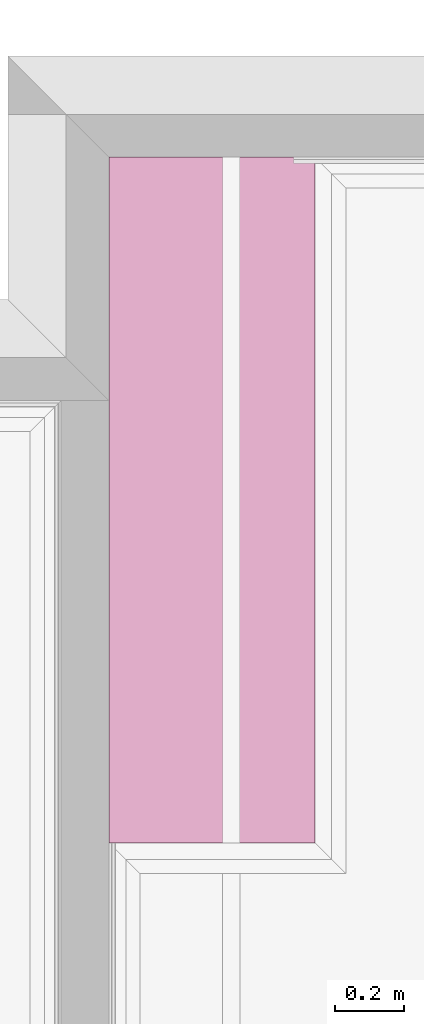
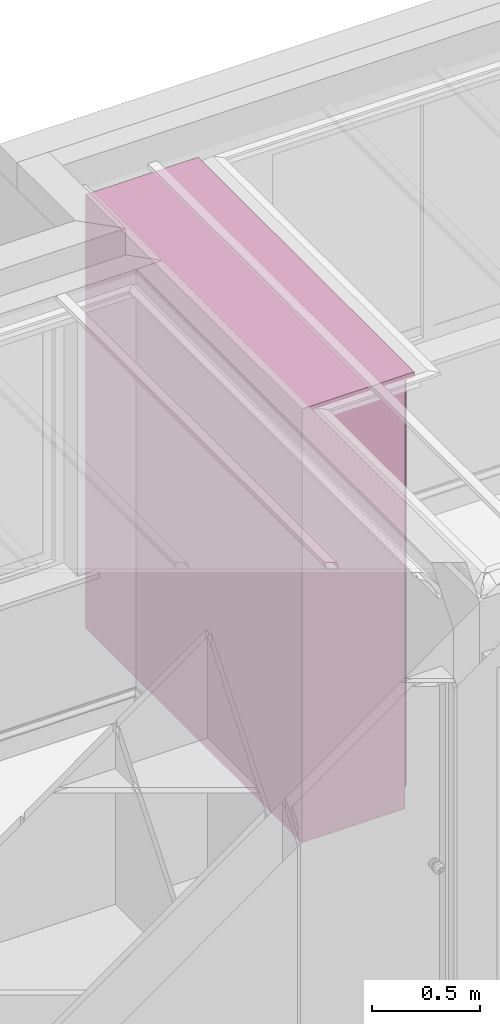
# One storey, part 15 of 15: 1 furnishing.
"""IFC2X3 building model written with IfcOpenShell, lengths in millimetres."""

from ifc_helpers import new_model, entity, si_unit, converted_unit, money_unit, direction, frame, origin_with_axes, place, context, subcontext, project, spatial, faceted_brep, source, transform, mapped, material, type_object, element, save


model = new_model("IFC2X3")

# Units and contexts
model_context = context("Model", 3, precision=1e-05, world=origin_with_axes(), true_north=direction((0.0, 1.0)))
body_context = subcontext(model_context, "Body", "Model", "MODEL_VIEW")
ifc_project = project(units=[si_unit("LENGTHUNIT", "METRE", prefix="MILLI"), si_unit("AREAUNIT", "SQUARE_METRE"), si_unit("VOLUMEUNIT", "CUBIC_METRE"), converted_unit("PLANEANGLEUNIT", "DEGREE", entity("IfcPlaneAngleMeasure", 0.0174532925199), si_unit("PLANEANGLEUNIT", "RADIAN"), dimensions=[0, 0, 0, 0, 0, 0, 0]), si_unit("SOLIDANGLEUNIT", "STERADIAN"), money_unit("AUD"), si_unit("TIMEUNIT", "SECOND"), si_unit("MASSUNIT", "GRAM"), si_unit("THERMODYNAMICTEMPERATUREUNIT", "DEGREE_CELSIUS"), si_unit("LUMINOUSINTENSITYUNIT", "LUMEN")], contexts=[model_context])

# Site, building, storey
site_placement = place(None, origin_with_axes())
site = spatial("IfcSite", under=ifc_project, at=site_placement, Name="Lot 1. East Hills", CompositionType="ELEMENT")
building_placement = place(site_placement, origin_with_axes())
building = spatial("IfcBuilding", under=site, at=building_placement, Name="Proposed Units 7 & 8", CompositionType="ELEMENT")
storey_placement = place(building_placement, frame((0.0, 0.0, 3202.0), z_axis=(0.0, 0.0, 1.0), x_axis=(1.0, 0.0, 0.0)))
storey = spatial("IfcBuildingStorey", under=building, at=storey_placement, Name="Ground", CompositionType="ELEMENT", Elevation=3202.0)

# Furnishing
ifc_material = material(Name="50 %")
furnishing_element_type = type_object("IfcFurnishingElementType", Name="Cupboard 12")
shared_shape = source(origin_with_axes(), body_context, "Body", "Brep", [
    faceted_brep([(1980.0, 600.656985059, 120.0), (1980.0, 600.656985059, 2400.0), (1980.0, 580.656985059, 2400.0), (1980.0, 580.656985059, 120.0), (20.0, 600.656985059, 120.0), (20.0, 600.656985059, 2400.0), (20.0, 580.656985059, 2400.0), (20.0, 580.656985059, 120.0)], [[[0, 1, 2, 3]], [[4, 5, 1, 0]], [[1, 5, 6, 2]], [[3, 2, 6, 7]], [[0, 3, 7, 4]], [[7, 6, 5, 4]]]),
    faceted_brep([(2000.0, 600.656985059, 100.0), (2000.0, 50.0, 100.0), (0.0, 50.0, 100.0), (0.0, 600.656985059, 100.0), (2000.0, 600.656985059, 2420.0), (2000.0, 50.0, 2420.0), (0.0, 50.0, 2420.0), (1980.0, 50.0, 120.0), (20.0, 50.0, 120.0), (20.0, 50.0, 2400.0), (1980.0, 50.0, 2400.0), (0.0, 600.656985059, 2420.0), (1980.0, 600.656985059, 120.0), (1980.0, 600.656985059, 2400.0), (20.0, 600.656985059, 2400.0), (20.0, 600.656985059, 120.0)], [[[0, 1, 2, 3]], [[4, 5, 1, 0]], [[1, 5, 6, 2], [7, 8, 9, 10]], [[3, 2, 6, 11]], [[0, 3, 11, 4], [12, 13, 14, 15]], [[11, 6, 5, 4]], [[15, 8, 7, 12]], [[14, 9, 8, 15]], [[13, 10, 9, 14]], [[12, 7, 10, 13]]]),
    faceted_brep([(0.0, 600.656985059, 2420.0), (0.0, 0.0, 2420.0), (0.0, 0.0, 2450.0), (0.0, 600.656985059, 2450.0), (2000.0, 600.656985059, 2420.0), (2000.0, 0.0, 2420.0), (2000.0, 0.0, 2450.0), (2000.0, 600.656985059, 2450.0)], [[[0, 1, 2, 3]], [[0, 4, 5, 1]], [[1, 5, 6, 2]], [[3, 2, 6, 7]], [[4, 0, 3, 7]], [[5, 4, 7, 6]]]),
    faceted_brep([(1960.0, 600.656985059, 0.0), (1960.0, 600.656985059, 100.0), (1960.0, 560.656985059, 100.0), (1960.0, 560.656985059, 0.0), (40.0, 600.656985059, 0.0), (40.0, 600.656985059, 100.0), (40.0, 560.656985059, 100.0), (40.0, 560.656985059, 0.0)], [[[0, 1, 2, 3]], [[4, 5, 1, 0]], [[1, 5, 6, 2]], [[3, 2, 6, 7]], [[0, 3, 7, 4]], [[7, 6, 5, 4]]]),
    faceted_brep([(2000.0, 600.656985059, 0.0), (2000.0, 600.656985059, 100.0), (2000.0, 50.0, 100.0), (2000.0, 50.0, 0.0), (1960.0, 600.656985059, 0.0), (1960.0, 600.656985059, 100.0), (1960.0, 50.0, 100.0), (1960.0, 50.0, 0.0)], [[[0, 1, 2, 3]], [[4, 5, 1, 0]], [[1, 5, 6, 2]], [[3, 2, 6, 7]], [[0, 3, 7, 4]], [[7, 6, 5, 4]]]),
    faceted_brep([(40.0, 600.656985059, 0.0), (40.0, 600.656985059, 100.0), (40.0, 50.0, 100.0), (40.0, 50.0, 0.0), (0.0, 600.656985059, 0.0), (0.0, 600.656985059, 100.0), (0.0, 50.0, 100.0), (0.0, 50.0, 0.0)], [[[0, 1, 2, 3]], [[4, 5, 1, 0]], [[1, 5, 6, 2]], [[3, 2, 6, 7]], [[0, 3, 7, 4]], [[7, 6, 5, 4]]]),
    faceted_brep([(1960.0, 130.0, 0.0), (1960.0, 130.0, 100.0), (1960.0, 90.0, 100.0), (1960.0, 90.0, 0.0), (40.0, 130.0, 0.0), (40.0, 130.0, 100.0), (40.0, 90.0, 100.0), (40.0, 90.0, 0.0)], [[[0, 1, 2, 3]], [[4, 5, 1, 0]], [[1, 5, 6, 2]], [[3, 2, 6, 7]], [[0, 3, 7, 4]], [[7, 6, 5, 4]]]),
    faceted_brep([(1980.0, 580.656985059, 866.666666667), (1980.0, 580.656985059, 886.666666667), (1980.0, 50.0, 886.666666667), (1980.0, 50.0, 866.666666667), (20.0, 580.656985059, 866.666666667), (20.0, 580.656985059, 886.666666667), (20.0, 50.0, 886.666666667), (20.0, 50.0, 866.666666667)], [[[0, 1, 2, 3]], [[4, 5, 1, 0]], [[1, 5, 6, 2]], [[3, 2, 6, 7]], [[0, 3, 7, 4]], [[7, 6, 5, 4]]]),
    faceted_brep([(1980.0, 580.656985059, 1633.33333333), (1980.0, 580.656985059, 1653.33333333), (1980.0, 50.0, 1653.33333333), (1980.0, 50.0, 1633.33333333), (20.0, 580.656985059, 1633.33333333), (20.0, 580.656985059, 1653.33333333), (20.0, 50.0, 1653.33333333), (20.0, 50.0, 1633.33333333)], [[[0, 1, 2, 3]], [[4, 5, 1, 0]], [[1, 5, 6, 2]], [[3, 2, 6, 7]], [[0, 3, 7, 4]], [[7, 6, 5, 4]]]),
    faceted_brep([(660.0, 580.656985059, 120.0), (660.0, 580.656985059, 2400.0), (680.0, 580.656985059, 2400.0), (680.0, 580.656985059, 120.0), (660.0, 50.0, 120.0), (660.0, 50.0, 2400.0), (680.0, 50.0, 2400.0), (680.0, 50.0, 120.0)], [[[0, 1, 2, 3]], [[4, 5, 1, 0]], [[1, 5, 6, 2]], [[3, 2, 6, 7]], [[0, 3, 7, 4]], [[7, 6, 5, 4]]]),
    faceted_brep([(1990.5, 50.0, 110.0), (1330.5, 50.0, 110.0), (1330.5, 50.0, 2410.0), (1990.5, 50.0, 2410.0), (1990.50000039, 40.0, 109.99999961), (1330.50000024, 40.0, 109.99999961), (1330.50000024, 40.0, 2410.00000036), (1990.50000039, 40.0, 2410.00000036), (1980.50000061, 30.0000002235, 119.999999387), (1340.50000002, 30.0000002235, 119.999999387), (1340.50000002, 30.0000002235, 2400.00000058), (1980.50000061, 30.0000002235, 2400.00000058)], [[[0, 1, 2, 3]], [[0, 4, 5, 1]], [[1, 5, 6, 2]], [[2, 6, 7, 3]], [[3, 7, 4, 0]], [[4, 8, 9, 5]], [[5, 9, 10, 6]], [[6, 10, 11, 7]], [[7, 11, 8, 4]], [[10, 9, 8, 11]]]),
    faceted_brep([(1330.5, 50.0, 110.0), (670.5, 50.0, 110.0), (670.5, 50.0, 2410.0), (1330.5, 50.0, 2410.0), (1330.50000039, 40.0, 109.99999961), (670.500000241, 40.0, 109.99999961), (670.500000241, 40.0, 2410.00000036), (1330.50000039, 40.0, 2410.00000036), (1320.50000061, 30.0000002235, 119.999999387), (680.500000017, 30.0000002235, 119.999999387), (680.500000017, 30.0000002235, 2400.00000058), (1320.50000061, 30.0000002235, 2400.00000058)], [[[0, 1, 2, 3]], [[0, 4, 5, 1]], [[1, 5, 6, 2]], [[2, 6, 7, 3]], [[3, 7, 4, 0]], [[4, 8, 9, 5]], [[5, 9, 10, 6]], [[6, 10, 11, 7]], [[7, 11, 8, 4]], [[10, 9, 8, 11]]]),
    faceted_brep([(670.5, 50.0, 110.0), (10.5, 50.0, 110.0), (10.5, 50.0, 2410.0), (670.5, 50.0, 2410.0), (670.50000039, 40.0, 109.99999961), (10.5000002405, 40.0, 109.99999961), (10.5000002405, 40.0, 2410.00000036), (670.50000039, 40.0, 2410.00000036), (660.500000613, 30.0000002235, 119.999999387), (20.500000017, 30.0000002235, 119.999999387), (20.500000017, 30.0000002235, 2400.00000058), (660.500000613, 30.0000002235, 2400.00000058)], [[[0, 1, 2, 3]], [[0, 4, 5, 1]], [[1, 5, 6, 2]], [[2, 6, 7, 3]], [[3, 7, 4, 0]], [[4, 8, 9, 5]], [[5, 9, 10, 6]], [[6, 10, 11, 7]], [[7, 11, 8, 4]], [[10, 9, 8, 11]]]),
    faceted_brep([(609.607695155, 30.0, 954.0), (608.0, 30.0, 960.0), (609.607695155, 30.0, 966.0), (614.0, 30.0, 970.392304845), (620.0, 30.0, 972.0), (626.0, 30.0, 970.392304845), (630.392304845, 30.0, 966.0), (632.0, 30.0, 960.0), (630.392304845, 30.0, 954.0), (626.0, 30.0, 949.607695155), (620.0, 30.0, 948.0), (614.0, 30.0, 949.607695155), (609.607695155, 5.0, 954.0), (608.0, 5.0, 960.0), (609.607695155, 5.0, 966.0), (614.0, 5.0, 970.392304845), (620.0, 5.0, 972.0), (626.0, 5.0, 970.392304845), (630.392304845, 5.0, 966.0), (632.0, 5.0, 960.0), (630.392304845, 5.0, 954.0), (626.0, 5.0, 949.607695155), (620.0, 5.0, 948.0), (614.0, 5.0, 949.607695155)], [[[0, 1, 2, 3, 4, 5, 6, 7, 8, 9, 10, 11]], [[0, 12, 13, 1]], [[1, 13, 14, 2]], [[2, 14, 15, 3]], [[3, 15, 16, 4]], [[4, 16, 17, 5]], [[5, 17, 18, 6]], [[6, 18, 19, 7]], [[7, 19, 20, 8]], [[8, 20, 21, 9]], [[9, 21, 22, 10]], [[10, 22, 23, 11]], [[11, 23, 12, 0]], [[12, 23, 22, 21, 20, 19, 18, 17, 16, 15, 14, 13]]]),
    faceted_brep([(1369.60769515, 30.0, 954.0), (1368.0, 30.0, 960.0), (1369.60769515, 30.0, 966.0), (1374.0, 30.0, 970.392304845), (1380.0, 30.0, 972.0), (1386.0, 30.0, 970.392304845), (1390.39230485, 30.0, 966.0), (1392.0, 30.0, 960.0), (1390.39230485, 30.0, 954.0), (1386.0, 30.0, 949.607695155), (1380.0, 30.0, 948.0), (1374.0, 30.0, 949.607695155), (1369.60769515, 5.0, 954.0), (1368.0, 5.0, 960.0), (1369.60769515, 5.0, 966.0), (1374.0, 5.0, 970.392304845), (1380.0, 5.0, 972.0), (1386.0, 5.0, 970.392304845), (1390.39230485, 5.0, 966.0), (1392.0, 5.0, 960.0), (1390.39230485, 5.0, 954.0), (1386.0, 5.0, 949.607695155), (1380.0, 5.0, 948.0), (1374.0, 5.0, 949.607695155)], [[[0, 1, 2, 3, 4, 5, 6, 7, 8, 9, 10, 11]], [[0, 12, 13, 1]], [[1, 13, 14, 2]], [[2, 14, 15, 3]], [[3, 15, 16, 4]], [[4, 16, 17, 5]], [[5, 17, 18, 6]], [[6, 18, 19, 7]], [[7, 19, 20, 8]], [[8, 20, 21, 9]], [[9, 21, 22, 10]], [[10, 22, 23, 11]], [[11, 23, 12, 0]], [[12, 23, 22, 21, 20, 19, 18, 17, 16, 15, 14, 13]]]),
    faceted_brep([(1290.39230485, 30.0, 954.0), (1286.0, 30.0, 949.607695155), (1280.0, 30.0, 948.0), (1274.0, 30.0, 949.607695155), (1269.60769515, 30.0, 954.0), (1268.0, 30.0, 960.0), (1269.60769515, 30.0, 966.0), (1274.0, 30.0, 970.392304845), (1280.0, 30.0, 972.0), (1286.0, 30.0, 970.392304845), (1290.39230485, 30.0, 966.0), (1292.0, 30.0, 960.0), (1290.39230485, 5.0, 954.0), (1286.0, 5.0, 949.607695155), (1280.0, 5.0, 948.0), (1274.0, 5.0, 949.607695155), (1269.60769515, 5.0, 954.0), (1268.0, 5.0, 960.0), (1269.60769515, 5.0, 966.0), (1274.0, 5.0, 970.392304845), (1280.0, 5.0, 972.0), (1286.0, 5.0, 970.392304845), (1290.39230485, 5.0, 966.0), (1292.0, 5.0, 960.0)], [[[0, 1, 2, 3, 4, 5, 6, 7, 8, 9, 10, 11]], [[1, 0, 12, 13]], [[2, 1, 13, 14]], [[3, 2, 14, 15]], [[4, 3, 15, 16]], [[5, 4, 16, 17]], [[6, 5, 17, 18]], [[7, 6, 18, 19]], [[8, 7, 19, 20]], [[9, 8, 20, 21]], [[10, 9, 21, 22]], [[11, 10, 22, 23]], [[0, 11, 23, 12]], [[12, 23, 22, 21, 20, 19, 18, 17, 16, 15, 14, 13]]]),
])
furnishing_placement = place(storey_placement, frame((12775.6569845, 2968.00000119, 0.0), z_axis=(0.0, 0.0, 1.0), x_axis=(0.0, 1.0, 0.0)))
element("IfcFurnishingElement", 1, at=furnishing_placement, inside=storey, type_object=furnishing_element_type, material=ifc_material, Name="U1_HANDBASIN - Cupboard 12 - object -", context=body_context, shape_type="MappedRepresentation", body=[
    mapped(shared_shape, transform((0.0, 0.0, 0.0))),
])

save(model, "model.ifc")
